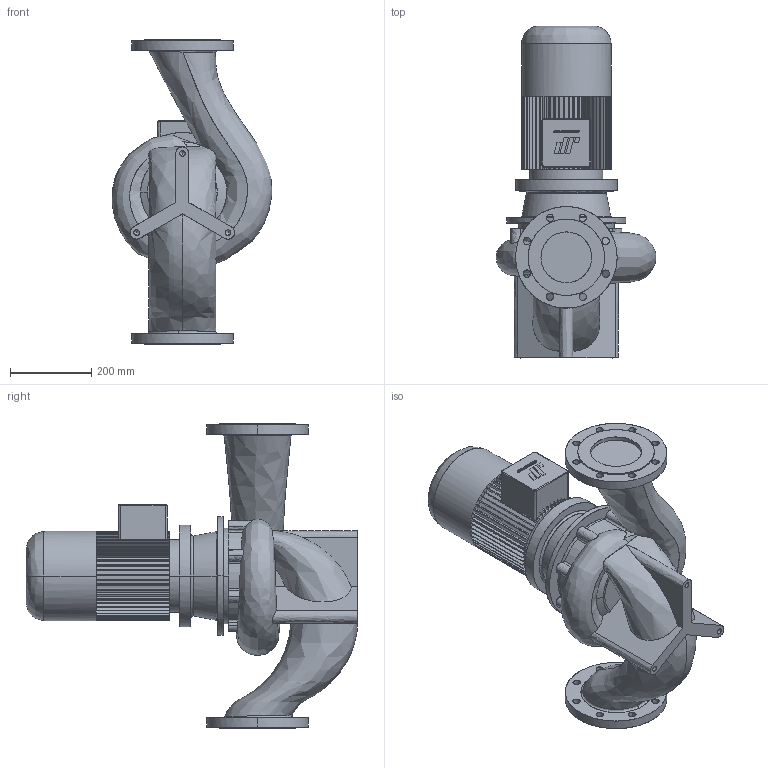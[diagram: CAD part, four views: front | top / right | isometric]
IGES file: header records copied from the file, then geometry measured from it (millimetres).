
Start section: CombiLine
Global section: file name: CLB_125-200_IEC112M_ND10.igs; native system:  By UGS Corp.; preprocessor: XPlus GENERIC/IGES 3.0; author: Stageplaats; organization: Johnson Pump Water B.V.; date: 20070717.132759; units: millimetre
Bounding box: 393.15 x 817 x 750 mm (x, y, z)
Surface area: 1596745.2 mm2 (no closed solid volume)
Topology: 0 solids, 0 shells, 566 faces, 3441 edges, 3435 vertices
Faces by surface type: bspline 566
